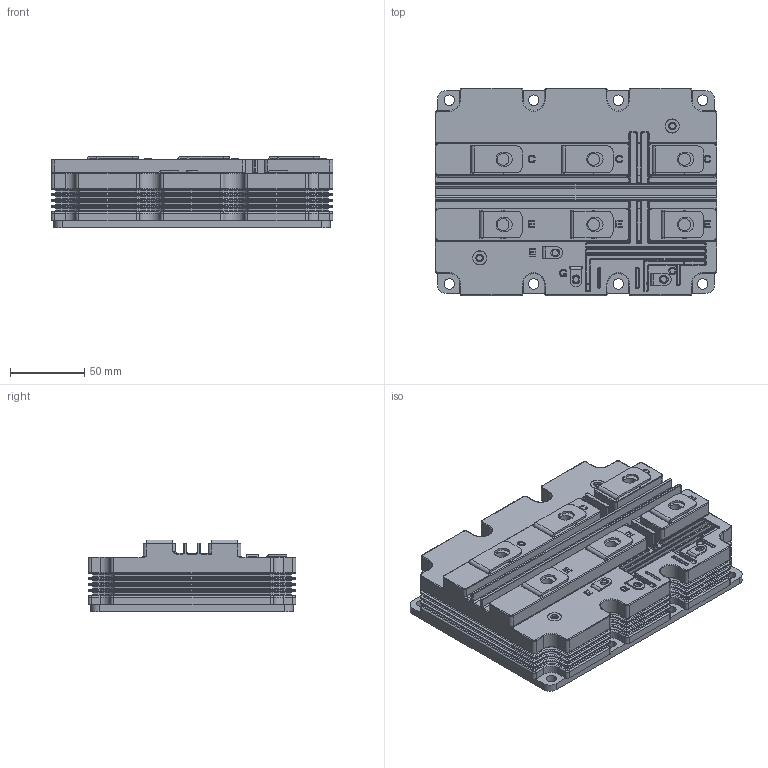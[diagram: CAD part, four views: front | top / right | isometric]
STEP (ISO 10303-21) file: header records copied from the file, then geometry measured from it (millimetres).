
FILE_DESCRIPTION (( 'STEP AP214' ), '1' );
FILE_NAME ('LD-ES-170634-MBN750H65E2.STEP', '2017-08-25T07:57:21', ( 'Flora110' ), ( '' ), 'SwSTEP 2.0', 'SolidWorks 2010', '' );
FILE_SCHEMA (( 'AUTOMOTIVE_DESIGN' ));
Length unit declared in the file: millimetre
Products named in the file (1): LD-ES-170634-MBN750H65E2
Bounding box: 190 x 140 x 48.5 mm (x, y, z)
Volume: 978153.2 mm3; surface area: 133323.4 mm2
Topology: 1 solids, 19 shells, 2275 faces, 5403 edges, 3242 vertices
Faces by surface type: cylinder 900, plane 756, bspline 619
Full cylindrical faces by diameter (mm): 3.5 x4, 4 x3, 4.5 x4, 5 x5, 7 x12, 8 x6, 9 x6, 9.3 x2, 9.5 x2, 18.1 x6, 18.5 x6
Entity records: 73688 total; most frequent: CARTESIAN_POINT 23793, ORIENTED_EDGE 10538, DIRECTION 10198, EDGE_CURVE 5269, AXIS2_PLACEMENT_3D 3736, VERTEX_POINT 3221, LINE 2726, VECTOR 2726
